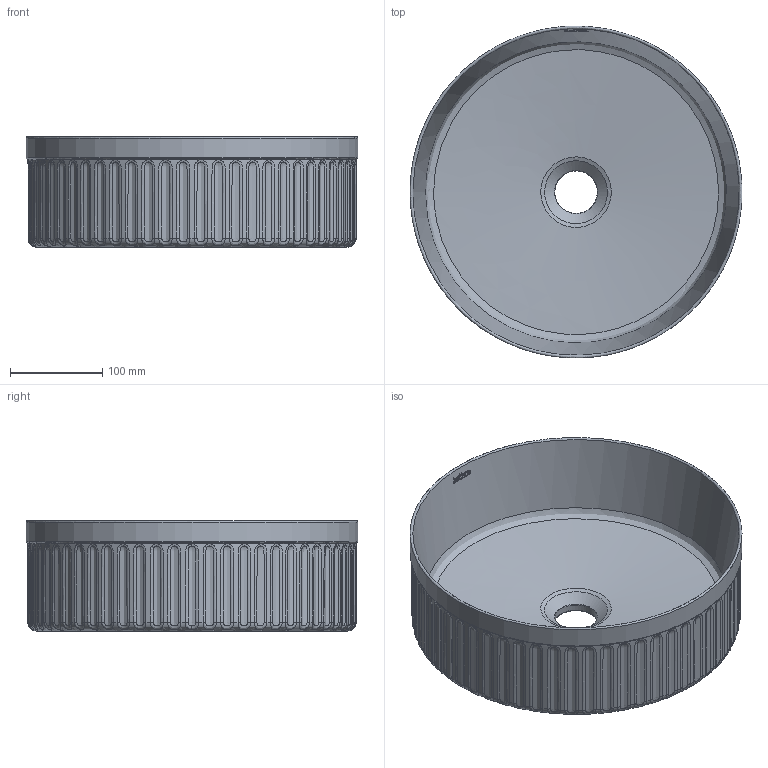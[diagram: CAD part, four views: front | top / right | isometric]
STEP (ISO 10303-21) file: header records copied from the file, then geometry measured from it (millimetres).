
FILE_DESCRIPTION(/* description */ (''),/* implementation_level */ '2;1');
FILE_NAME(/* name */ '4179_4~1',/* time_stamp */ '2024-07-31T14:45:50+02:00',/* author */ (''),/* organization */ (''),/* preprocessor_version */ 'ST-DEVELOPER v16.5',/* originating_system */ '',/* authorisation */ '');
FILE_SCHEMA (('CONFIG_CONTROL_DESIGN'));
Length unit declared in the file: millimetre
Products named in the file (1): Document
Bounding box: 359.89 x 359.78 x 120 mm (x, y, z)
Volume: 1941865.6 mm3; surface area: 432947.9 mm2
Topology: 13 solids, 13 shells, 321 faces, 744 edges, 447 vertices
Faces by surface type: bspline 311, plane 7, cylinder 3
Full cylindrical faces by diameter (mm): 46 x1, 356 x1, 360 x1
Entity records: 51762 total; most frequent: CARTESIAN_POINT 47651, ORIENTED_EDGE 1488, EDGE_CURVE 744, VERTEX_POINT 447, EDGE_LOOP 333, ADVANCED_FACE 321, FACE_OUTER_BOUND 321, B_SPLINE_CURVE_WITH_KNOTS 229
